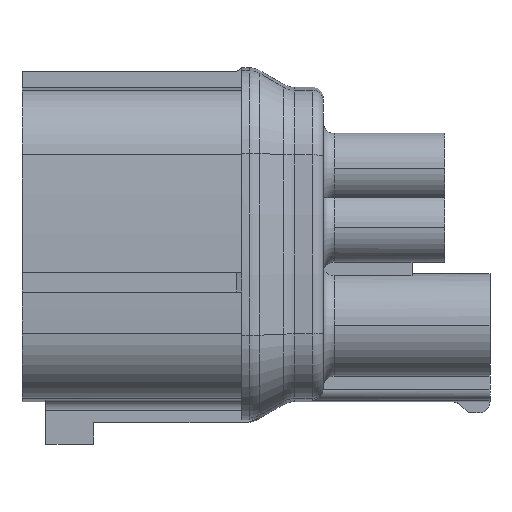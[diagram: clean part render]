
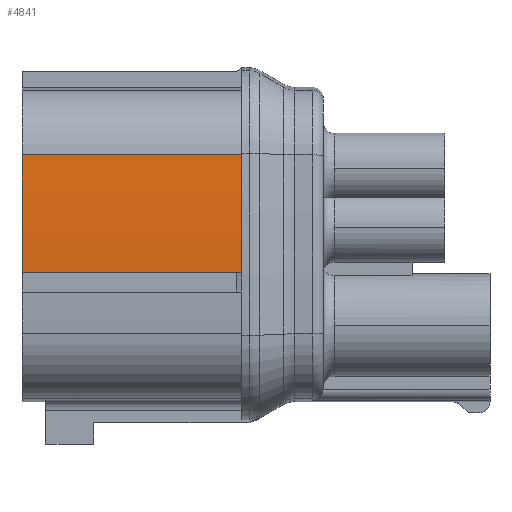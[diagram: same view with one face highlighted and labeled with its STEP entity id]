
A CAD part, front view. The second image highlights one B-rep face of the part: STEP entity #4841.
In plain terms, the highlighted cylindrical face has radius 103.3 mm (diameter 206.6 mm), a partial arc.
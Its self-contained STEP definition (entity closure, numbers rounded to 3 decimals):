
#3086=CARTESIAN_POINT('Axis2P3D Location',(14.51,88.75,0.)) ;
#3164=CARTESIAN_POINT('Vertex',(0.,-14.517,-2.6)) ;
#3167=CARTESIAN_POINT('Axis2P3D Location',(0.,88.75,0.)) ;
#3171=CARTESIAN_POINT('Vertex',(0.,-14.219,8.26)) ;
#4602=CARTESIAN_POINT('Line Origine',(10.15,-14.517,-2.6)) ;
#4606=CARTESIAN_POINT('Vertex',(20.3,-14.517,-2.6)) ;
#4823=CARTESIAN_POINT('Axis2P3D Location',(20.3,88.75,0.)) ;
#4827=CARTESIAN_POINT('Vertex',(20.3,-14.219,8.26)) ;
#4830=CARTESIAN_POINT('Line Origine',(14.51,-14.219,8.26)) ;
#3087=DIRECTION('Axis2P3D Direction',(1.,0.,0.)) ;
#3088=DIRECTION('Axis2P3D XDirection',(0.,-0.991,0.132)) ;
#3168=DIRECTION('Axis2P3D Direction',(1.,0.,0.)) ;
#4603=DIRECTION('Vector Direction',(1.,0.,0.)) ;
#4824=DIRECTION('Axis2P3D Direction',(1.,0.,0.)) ;
#4831=DIRECTION('Vector Direction',(1.,0.,0.)) ;
#3089=AXIS2_PLACEMENT_3D('Cylinder Axis2P3D',#3086,#3087,#3088) ;
#3169=AXIS2_PLACEMENT_3D('Circle Axis2P3D',#3167,#3168,$) ;
#4825=AXIS2_PLACEMENT_3D('Circle Axis2P3D',#4823,#4824,$) ;
#4836=ORIENTED_EDGE('',*,*,#4829,.F.) ;
#4837=ORIENTED_EDGE('',*,*,#4834,.F.) ;
#4838=ORIENTED_EDGE('',*,*,#3173,.T.) ;
#4839=ORIENTED_EDGE('',*,*,#4608,.T.) ;
#4604=VECTOR('Line Direction',#4603,1.) ;
#4832=VECTOR('Line Direction',#4831,1.) ;
#4841=ADVANCED_FACE('6181-0381',(#4840),#3090,.T.) ;
#3170=CIRCLE('generated circle',#3169,103.3) ;
#4826=CIRCLE('generated circle',#4825,103.3) ;
#3090=CYLINDRICAL_SURFACE('generated cylinder',#3089,103.3) ;
#3173=EDGE_CURVE('',#3172,#3165,#3170,.T.) ;
#4608=EDGE_CURVE('',#3165,#4607,#4605,.T.) ;
#4829=EDGE_CURVE('',#4828,#4607,#4826,.T.) ;
#4834=EDGE_CURVE('',#3172,#4828,#4833,.T.) ;
#4835=EDGE_LOOP('',(#4836,#4837,#4838,#4839)) ;
#4840=FACE_OUTER_BOUND('',#4835,.T.) ;
#4605=LINE('Line',#4602,#4604) ;
#4833=LINE('Line',#4830,#4832) ;
#3165=VERTEX_POINT('',#3164) ;
#3172=VERTEX_POINT('',#3171) ;
#4607=VERTEX_POINT('',#4606) ;
#4828=VERTEX_POINT('',#4827) ;
